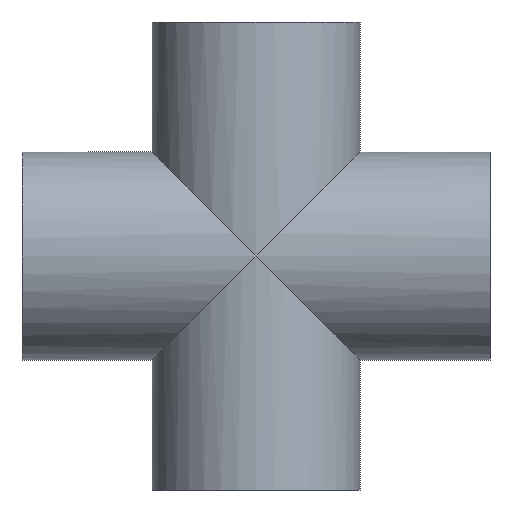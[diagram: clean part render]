
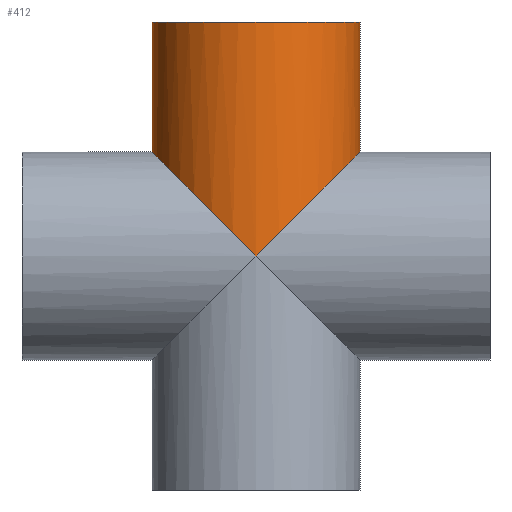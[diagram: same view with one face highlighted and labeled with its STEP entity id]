
A CAD part, front view. The second image highlights one B-rep face of the part: STEP entity #412.
In plain terms, the highlighted cylindrical face has radius 38.1 mm (diameter 76.2 mm), a partial arc.
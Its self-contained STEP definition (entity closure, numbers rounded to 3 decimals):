
#38 = EDGE_CURVE ( 'NONE', #118, #426, #638, .T. ) ;
#45 = EDGE_LOOP ( 'NONE', ( #109, #381, #196, #446, #328 ) ) ;
#64 = EDGE_CURVE ( 'NONE', #220, #99, #261, .T. ) ;
#76 = CARTESIAN_POINT ( 'NONE',  ( 38.1, 0., 85.725 ) ) ;
#99 = VERTEX_POINT ( 'NONE', #127 ) ;
#109 = ORIENTED_EDGE ( 'NONE', *, *, #135, .F. ) ;
#118 = VERTEX_POINT ( 'NONE', #76 ) ;
#122 = CARTESIAN_POINT ( 'NONE',  ( 0., 0., -85.725 ) ) ;
#127 = CARTESIAN_POINT ( 'NONE',  ( -38.1, 0., 38.1 ) ) ;
#135 = EDGE_CURVE ( 'NONE', #99, #426, #214, .T. ) ;
#136 = DIRECTION ( 'NONE',  ( 0., 0., -1. ) ) ;
#147 = AXIS2_PLACEMENT_3D ( 'NONE', #478, #136, #424 ) ;
#157 = VECTOR ( 'NONE', #618, 1000. ) ;
#188 = VECTOR ( 'NONE', #592, 1000. ) ;
#189 = CARTESIAN_POINT ( 'NONE',  ( -22.318, -38.1, 22.318 ) ) ;
#196 = ORIENTED_EDGE ( 'NONE', *, *, #476, .T. ) ;
#203 = CARTESIAN_POINT ( 'NONE',  ( -38.1, 0., 38.1 ) ) ;
#214 = LINE ( 'NONE', #469, #157 ) ;
#218 =( BOUNDED_CURVE ( )  B_SPLINE_CURVE ( 3, ( #506, #373, #265, #284 ),
 .UNSPECIFIED., .F., .T. ) 
 B_SPLINE_CURVE_WITH_KNOTS ( ( 4, 4 ),
 ( 4.712, 6.283 ),
 .UNSPECIFIED. ) 
 CURVE ( )  GEOMETRIC_REPRESENTATION_ITEM ( )  RATIONAL_B_SPLINE_CURVE ( ( 1., 0.805, 0.805, 1. ) ) 
 REPRESENTATION_ITEM ( '' )  );
#220 = VERTEX_POINT ( 'NONE', #330 ) ;
#261 =( BOUNDED_CURVE ( )  B_SPLINE_CURVE ( 3, ( #534, #189, #520, #203 ),
 .UNSPECIFIED., .F., .T. ) 
 B_SPLINE_CURVE_WITH_KNOTS ( ( 4, 4 ),
 ( 4.712, 6.283 ),
 .UNSPECIFIED. ) 
 CURVE ( )  GEOMETRIC_REPRESENTATION_ITEM ( )  RATIONAL_B_SPLINE_CURVE ( ( 1., 0.805, 0.805, 1. ) ) 
 REPRESENTATION_ITEM ( '' )  );
#265 = CARTESIAN_POINT ( 'NONE',  ( 38.1, -22.318, 38.1 ) ) ;
#284 = CARTESIAN_POINT ( 'NONE',  ( 38.1, 0., 38.1 ) ) ;
#294 = LINE ( 'NONE', #519, #188 ) ;
#328 = ORIENTED_EDGE ( 'NONE', *, *, #38, .T. ) ;
#330 = CARTESIAN_POINT ( 'NONE',  ( 0., -38.1, 0. ) ) ;
#373 = CARTESIAN_POINT ( 'NONE',  ( 22.318, -38.1, 22.318 ) ) ;
#379 = EDGE_CURVE ( 'NONE', #522, #118, #294, .T. ) ;
#381 = ORIENTED_EDGE ( 'NONE', *, *, #64, .F. ) ;
#412 = ADVANCED_FACE ( 'NONE', ( #457 ), #632, .T. ) ;
#424 = DIRECTION ( 'NONE',  ( 1., 0., 0. ) ) ;
#426 = VERTEX_POINT ( 'NONE', #515 ) ;
#446 = ORIENTED_EDGE ( 'NONE', *, *, #379, .T. ) ;
#453 = DIRECTION ( 'NONE',  ( 0., 0., 1. ) ) ;
#457 = FACE_OUTER_BOUND ( 'NONE', #45, .T. ) ;
#465 = CARTESIAN_POINT ( 'NONE',  ( 38.1, 0., 38.1 ) ) ;
#469 = CARTESIAN_POINT ( 'NONE',  ( -38.1, 0., -85.725 ) ) ;
#476 = EDGE_CURVE ( 'NONE', #220, #522, #218, .T. ) ;
#478 = CARTESIAN_POINT ( 'NONE',  ( 0., 0., 85.725 ) ) ;
#506 = CARTESIAN_POINT ( 'NONE',  ( 0., -38.1, 0. ) ) ;
#515 = CARTESIAN_POINT ( 'NONE',  ( -38.1, 0., 85.725 ) ) ;
#519 = CARTESIAN_POINT ( 'NONE',  ( 38.1, 0., -85.725 ) ) ;
#520 = CARTESIAN_POINT ( 'NONE',  ( -38.1, -22.318, 38.1 ) ) ;
#522 = VERTEX_POINT ( 'NONE', #465 ) ;
#534 = CARTESIAN_POINT ( 'NONE',  ( 0., -38.1, 0. ) ) ;
#563 = DIRECTION ( 'NONE',  ( 1., 0., 0. ) ) ;
#592 = DIRECTION ( 'NONE',  ( 0., 0., 1. ) ) ;
#603 = AXIS2_PLACEMENT_3D ( 'NONE', #122, #453, #563 ) ;
#618 = DIRECTION ( 'NONE',  ( 0., 0., 1. ) ) ;
#632 = CYLINDRICAL_SURFACE ( 'NONE', #603, 38.1 ) ;
#638 = CIRCLE ( 'NONE', #147, 38.1 ) ;
